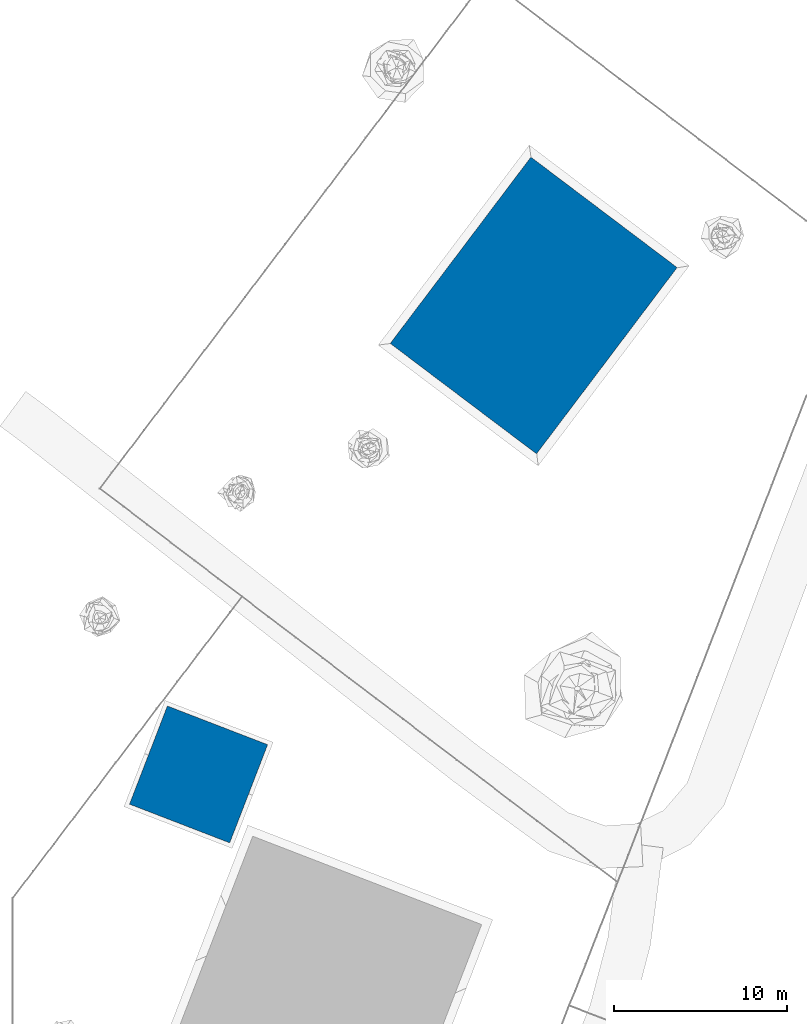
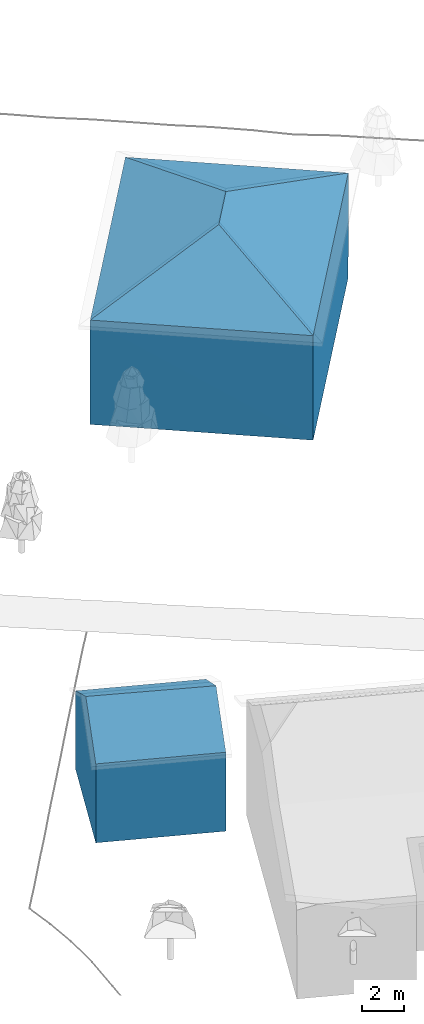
# Not in any storey, part 2 of 88: 2 walls.
"""IFC4 building model written with IfcOpenShell, lengths in metres."""

from ifc_helpers import new_model, si_unit, origin_with_axes, place, context, subcontext, project, spatial, faceted_brep, element, save


model = new_model("IFC4")

# Units and contexts
model_context = context("Model", 3, precision=1e-05, world=origin_with_axes())
body_context = subcontext(model_context, "Body", "Model", "MODEL_VIEW")
ifc_project = project(units=[si_unit("LENGTHUNIT", "METRE"), si_unit("AREAUNIT", "SQUARE_METRE"), si_unit("VOLUMEUNIT", "CUBIC_METRE"), si_unit("PLANEANGLEUNIT", "RADIAN")], contexts=[model_context])

# Sites, building
site_1_placement = place(None, origin_with_axes())
site_1 = spatial("IfcSite", under=ifc_project, at=site_1_placement, Name="CH907857693633", CompositionType="ELEMENT")
site_2_placement = place(None, origin_with_axes())
site_2 = spatial("IfcSite", under=site_1, at=site_2_placement, Name="Buildings", CompositionType="ELEMENT")
building_1_placement = place(None, origin_with_axes())
building_1 = spatial("IfcBuilding", under=site_2, at=building_1_placement, Name="Building_00CCDBD0", CompositionType="ELEMENT")

# Wall
wall_1_placement = place(building_1_placement, origin_with_axes())
element("IfcWall", 1, at=wall_1_placement, inside=building_1, Name="Building_00CCDBD0_Wall", PredefinedType="NOTDEFINED", context=body_context, shape_type="Brep", body=[
    faceted_brep([(12.5190000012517, 102.504999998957, 5.90088779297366), (10.1669999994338, 105.019000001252, 6.77678779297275), (9.62700000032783, 103.620999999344, 5.90088779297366), (7.82899999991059, 107.570999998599, 7.67878779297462), (10.1669999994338, 105.019000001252, 6.77678779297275), (10.7129999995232, 106.436999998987, 7.66478779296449), (13.5989999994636, 105.298999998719, 7.65278779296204), (11.2690000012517, 107.872999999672, 6.7887877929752), (10.7129999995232, 106.436999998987, 7.66478779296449), (11.2690000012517, 107.872999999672, 6.7887877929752), (8.92100000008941, 110.409000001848, 5.90088779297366), (7.82899999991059, 107.570999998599, 7.67878779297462), (8.92100000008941, 110.409000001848, 5.90088779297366), (11.2690000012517, 107.872999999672, 6.7887877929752), (11.8150000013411, 109.291000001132, 5.90088779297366), (6.73499999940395, 104.736999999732, 3.63108779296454), (6.73499999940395, 104.736999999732, 1.36528779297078), (9.62700000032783, 103.620999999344, 3.63108779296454), (9.62700000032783, 103.620999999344, 1.36528779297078), (9.62700000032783, 103.620999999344, 3.63108779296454), (6.73499999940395, 104.736999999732, 1.36528779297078), (9.62700000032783, 103.620999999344, 3.63108779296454), (6.73499999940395, 104.736999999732, 5.90088779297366), (6.73499999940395, 104.736999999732, 3.63108779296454), (6.73499999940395, 104.736999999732, 5.90088779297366), (9.62700000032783, 103.620999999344, 3.63108779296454), (9.62700000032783, 103.620999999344, 5.90088779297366), (9.62700000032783, 103.620999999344, 5.90088779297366), (9.62700000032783, 103.620999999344, 3.63108779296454), (12.5190000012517, 102.504999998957, 5.90088779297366), (12.5190000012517, 102.504999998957, 3.63108779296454), (12.5190000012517, 102.504999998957, 5.90088779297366), (9.62700000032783, 103.620999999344, 3.63108779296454), (12.5190000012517, 102.504999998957, 1.36528779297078), (9.62700000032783, 103.620999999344, 3.63108779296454), (9.62700000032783, 103.620999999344, 1.36528779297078), (9.62700000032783, 103.620999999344, 3.63108779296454), (12.5190000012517, 102.504999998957, 1.36528779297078), (12.5190000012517, 102.504999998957, 3.63108779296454), (13.6149999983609, 105.33900000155, 3.63108779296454), (12.5190000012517, 102.504999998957, 3.63108779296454), (12.5190000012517, 102.504999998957, 1.36528779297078), (12.5190000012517, 102.504999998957, 1.36528779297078), (13.6149999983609, 105.33900000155, 1.36528779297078), (13.6149999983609, 105.33900000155, 3.63108779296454), (13.6149999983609, 105.33900000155, 3.63108779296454), (12.5190000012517, 102.504999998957, 5.90088779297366), (12.5190000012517, 102.504999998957, 3.63108779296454), (12.5190000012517, 102.504999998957, 5.90088779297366), (13.6149999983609, 105.33900000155, 3.63108779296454), (13.6149999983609, 105.33900000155, 5.90088779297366), (14.7089999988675, 108.175000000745, 5.90088779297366), (13.5989999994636, 105.298999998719, 7.65278779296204), (13.6149999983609, 105.33900000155, 5.90088779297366), (13.6149999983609, 105.33900000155, 3.63108779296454), (14.7089999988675, 108.175000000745, 1.36528779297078), (14.7089999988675, 108.175000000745, 3.63108779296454), (14.7089999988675, 108.175000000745, 5.90088779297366), (13.6149999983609, 105.33900000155, 5.90088779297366), (13.6149999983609, 105.33900000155, 3.63108779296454), (14.7089999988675, 108.175000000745, 1.36528779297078), (13.6149999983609, 105.33900000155, 3.63108779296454), (13.6149999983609, 105.33900000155, 1.36528779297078), (13.6149999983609, 105.33900000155, 3.63108779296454), (14.7089999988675, 108.175000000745, 3.63108779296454), (14.7089999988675, 108.175000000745, 5.90088779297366), (14.7089999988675, 108.175000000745, 5.90088779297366), (14.7089999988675, 108.175000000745, 3.63108779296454), (11.8150000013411, 109.291000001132, 3.63108779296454), (11.8150000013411, 109.291000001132, 3.63108779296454), (11.8150000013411, 109.291000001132, 5.90088779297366), (14.7089999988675, 108.175000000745, 5.90088779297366), (11.8150000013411, 109.291000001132, 3.63108779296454), (14.7089999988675, 108.175000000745, 1.36528779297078), (11.8150000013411, 109.291000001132, 1.36528779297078), (14.7089999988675, 108.175000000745, 1.36528779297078), (11.8150000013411, 109.291000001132, 3.63108779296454), (14.7089999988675, 108.175000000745, 3.63108779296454), (8.92100000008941, 110.409000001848, 1.36528779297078), (8.92100000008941, 110.409000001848, 3.63108779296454), (11.8150000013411, 109.291000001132, 3.63108779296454), (11.8150000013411, 109.291000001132, 3.63108779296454), (11.8150000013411, 109.291000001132, 1.36528779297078), (8.92100000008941, 110.409000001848, 1.36528779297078), (11.8150000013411, 109.291000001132, 3.63108779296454), (8.92100000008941, 110.409000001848, 5.90088779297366), (11.8150000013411, 109.291000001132, 5.90088779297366), (8.92100000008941, 110.409000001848, 5.90088779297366), (11.8150000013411, 109.291000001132, 3.63108779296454), (8.92100000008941, 110.409000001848, 3.63108779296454), (7.82899999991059, 107.572999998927, 3.63108779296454), (8.92100000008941, 110.409000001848, 1.36528779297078), (7.82899999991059, 107.572999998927, 1.36528779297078), (8.92100000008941, 110.409000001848, 1.36528779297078), (7.82899999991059, 107.572999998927, 3.63108779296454), (8.92100000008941, 110.409000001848, 3.63108779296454), (8.92100000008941, 110.409000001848, 3.63108779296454), (7.82899999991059, 107.572999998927, 3.63108779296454), (8.92100000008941, 110.409000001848, 5.90088779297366), (7.82899999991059, 107.572999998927, 5.90088779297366), (8.92100000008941, 110.409000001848, 5.90088779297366), (7.82899999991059, 107.572999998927, 3.63108779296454), (6.73499999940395, 104.736999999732, 5.90088779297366), (7.82899999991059, 107.570999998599, 7.67878779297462), (7.82899999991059, 107.572999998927, 5.90088779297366), (6.73499999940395, 104.736999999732, 3.63108779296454), (7.82899999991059, 107.572999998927, 3.63108779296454), (6.73499999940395, 104.736999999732, 1.36528779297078), (6.73499999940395, 104.736999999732, 5.90088779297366), (7.82899999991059, 107.572999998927, 3.63108779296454), (6.73499999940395, 104.736999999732, 3.63108779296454), (7.82899999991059, 107.572999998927, 1.36528779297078), (6.73499999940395, 104.736999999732, 1.36528779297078), (7.82899999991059, 107.572999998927, 3.63108779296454), (7.82899999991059, 107.572999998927, 3.63108779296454), (6.73499999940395, 104.736999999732, 5.90088779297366), (7.82899999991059, 107.572999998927, 5.90088779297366), (12.5190000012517, 102.504999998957, 1.36528779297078), (11.6209999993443, 104.47899999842, 1.36528779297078), (13.6149999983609, 105.33900000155, 1.36528779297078), (8.72700000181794, 105.596999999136, 1.36528779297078), (9.62700000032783, 103.620999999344, 1.36528779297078), (6.73499999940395, 104.736999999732, 1.36528779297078), (8.72700000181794, 105.596999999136, 1.36528779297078), (7.82899999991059, 107.572999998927, 1.36528779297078), (10.7210000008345, 106.45699999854, 1.36528779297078), (9.62700000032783, 103.620999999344, 1.36528779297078), (8.72700000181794, 105.596999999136, 1.36528779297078), (10.7210000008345, 106.45699999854, 1.36528779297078), (10.7210000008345, 106.45699999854, 1.36528779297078), (11.6209999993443, 104.47899999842, 1.36528779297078), (9.62700000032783, 103.620999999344, 1.36528779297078), (12.714999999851, 107.315000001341, 1.36528779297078), (11.8150000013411, 109.291000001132, 1.36528779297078), (14.7089999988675, 108.175000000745, 1.36528779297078), (9.82099999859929, 108.431000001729, 1.36528779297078), (8.92100000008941, 110.409000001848, 1.36528779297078), (11.8150000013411, 109.291000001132, 1.36528779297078), (10.7210000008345, 106.45699999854, 1.36528779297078), (9.82099999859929, 108.431000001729, 1.36528779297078), (11.8150000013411, 109.291000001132, 1.36528779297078), (9.82099999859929, 108.431000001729, 1.36528779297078), (10.7210000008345, 106.45699999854, 1.36528779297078), (7.82899999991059, 107.572999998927, 1.36528779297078), (8.92100000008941, 110.409000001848, 1.36528779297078), (9.82099999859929, 108.431000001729, 1.36528779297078), (7.82899999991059, 107.572999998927, 1.36528779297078), (13.6149999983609, 105.33900000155, 1.36528779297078), (12.714999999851, 107.315000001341, 1.36528779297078), (14.7089999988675, 108.175000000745, 1.36528779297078), (11.8150000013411, 109.291000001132, 1.36528779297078), (12.714999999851, 107.315000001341, 1.36528779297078), (10.7210000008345, 106.45699999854, 1.36528779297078), (12.714999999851, 107.315000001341, 1.36528779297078), (13.6149999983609, 105.33900000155, 1.36528779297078), (10.7210000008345, 106.45699999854, 1.36528779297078), (11.6209999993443, 104.47899999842, 1.36528779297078), (10.7210000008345, 106.45699999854, 1.36528779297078), (13.6149999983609, 105.33900000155, 1.36528779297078), (11.6209999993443, 104.47899999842, 1.36528779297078), (12.5190000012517, 102.504999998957, 1.36528779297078), (9.62700000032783, 103.620999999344, 1.36528779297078), (7.82899999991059, 107.572999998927, 1.36528779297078), (8.72700000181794, 105.596999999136, 1.36528779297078), (6.73499999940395, 104.736999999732, 1.36528779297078), (13.5989999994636, 105.298999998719, 7.65278779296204), (14.7089999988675, 108.175000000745, 5.90088779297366), (11.2690000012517, 107.872999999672, 6.7887877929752), (12.5190000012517, 102.504999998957, 5.90088779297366), (13.5989999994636, 105.298999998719, 7.65278779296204), (10.1669999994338, 105.019000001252, 6.77678779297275), (7.82899999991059, 107.570999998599, 7.67878779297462), (6.73499999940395, 104.736999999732, 5.90088779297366), (10.1669999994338, 105.019000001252, 6.77678779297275), (10.1669999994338, 105.019000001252, 6.77678779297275), (13.5989999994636, 105.298999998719, 7.65278779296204), (10.7129999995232, 106.436999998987, 7.66478779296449), (11.2690000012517, 107.872999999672, 6.7887877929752), (7.82899999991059, 107.570999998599, 7.67878779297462), (10.7129999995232, 106.436999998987, 7.66478779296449), (11.2690000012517, 107.872999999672, 6.7887877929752), (14.7089999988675, 108.175000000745, 5.90088779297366), (11.8150000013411, 109.291000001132, 5.90088779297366), (10.1669999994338, 105.019000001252, 6.77678779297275), (6.73499999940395, 104.736999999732, 5.90088779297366), (9.62700000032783, 103.620999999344, 5.90088779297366), (13.5989999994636, 105.298999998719, 7.65278779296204), (12.5190000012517, 102.504999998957, 5.90088779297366), (13.6149999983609, 105.33900000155, 5.90088779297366), (7.82899999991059, 107.570999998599, 7.67878779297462), (8.92100000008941, 110.409000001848, 5.90088779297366), (7.82899999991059, 107.572999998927, 5.90088779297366)], [[[0, 1, 2]], [[3, 4, 5]], [[6, 7, 8]], [[9, 10, 11]], [[12, 13, 14]], [[15, 16, 17]], [[18, 19, 20]], [[21, 22, 23]], [[24, 25, 26]], [[27, 28, 29]], [[30, 31, 32]], [[33, 34, 35]], [[36, 37, 38]], [[39, 40, 41]], [[42, 43, 44]], [[45, 46, 47]], [[48, 49, 50]], [[51, 52, 53]], [[54, 55, 56]], [[57, 58, 59]], [[60, 61, 62]], [[63, 64, 65]], [[66, 67, 68]], [[69, 70, 71]], [[72, 73, 74]], [[75, 76, 77]], [[78, 79, 80]], [[81, 82, 83]], [[84, 85, 86]], [[87, 88, 89]], [[90, 91, 92]], [[93, 94, 95]], [[96, 97, 98]], [[99, 100, 101]], [[102, 103, 104]], [[105, 106, 107]], [[108, 109, 110]], [[111, 112, 113]], [[114, 115, 116]], [[117, 118, 119]], [[120, 121, 122]], [[123, 124, 125]], [[126, 127, 128]], [[129, 130, 131]], [[132, 133, 134]], [[135, 136, 137]], [[138, 139, 140]], [[141, 142, 143]], [[144, 145, 146]], [[147, 148, 149]], [[150, 151, 152]], [[153, 154, 155]], [[156, 157, 158]], [[159, 160, 161]], [[162, 163, 164]], [[165, 166, 167]], [[168, 169, 170]], [[171, 172, 173]], [[174, 175, 176]], [[177, 178, 179]], [[180, 181, 182]], [[183, 184, 185]], [[186, 187, 188]], [[189, 190, 191]]]),
])

# Building
building_2_placement = place(None, origin_with_axes())
building_2 = spatial("IfcBuilding", under=site_2, at=building_2_placement, Name="Building_A8D2A459", CompositionType="ELEMENT")

# Wall
wall_2_placement = place(building_2_placement, origin_with_axes())
element("IfcWall", 2, at=wall_2_placement, inside=building_2, Name="Building_A8D2A459_Wall", PredefinedType="NOTDEFINED", context=body_context, shape_type="Brep", body=[
    faceted_brep([(29.3729999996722, 132.355000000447, 12.2363877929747), (26.0170000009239, 128.15700000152, 10.0105877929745), (29.8070000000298, 128.664999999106, 11.1244877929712), (31.0130000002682, 134.526999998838, 12.2363877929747), (25.855000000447, 136.717000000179, 10.0085877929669), (26.4050000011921, 132.932999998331, 11.1224877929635), (29.3729999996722, 132.355000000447, 12.2363877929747), (26.4050000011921, 132.932999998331, 11.1224877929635), (25.5850000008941, 131.846999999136, 11.1224877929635), (31.0130000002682, 134.526999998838, 12.2363877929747), (34.2950000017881, 130.346999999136, 10.0124877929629), (34.6829999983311, 135.125, 11.1244877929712), (31.0130000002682, 134.526999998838, 12.2363877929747), (29.3729999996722, 132.355000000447, 12.2363877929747), (30.6270000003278, 129.750999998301, 11.1244877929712), (31.0130000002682, 134.526999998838, 12.2363877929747), (34.1350000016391, 138.909000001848, 10.0105877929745), (30.464999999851, 138.311000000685, 11.1224877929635), (30.234999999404, 124.969000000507, 4.01298779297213), (30.2390000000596, 124.97500000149, 10.0145877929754), (26.015000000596, 128.153000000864, 7.0107877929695), (21.7950000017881, 131.340999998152, 10.0085877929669), (21.7910000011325, 131.34299999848, 4.01098779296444), (26.015000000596, 128.153000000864, 7.0107877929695), (38.3530000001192, 135.72500000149, 4.01098779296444), (38.3530000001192, 135.723000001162, 10.0104877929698), (34.2950000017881, 130.348999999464, 7.01278779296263), (30.2390000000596, 124.97500000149, 10.0145877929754), (30.234999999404, 124.969000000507, 4.01298779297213), (34.2950000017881, 130.348999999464, 7.01278779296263), (38.3530000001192, 135.723000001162, 10.0104877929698), (34.1350000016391, 138.909000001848, 7.0107877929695), (34.1350000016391, 138.909000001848, 10.0105877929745), (29.9109999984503, 142.098999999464, 4.01298779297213), (34.1350000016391, 138.909000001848, 7.0107877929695), (34.1330000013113, 138.91099999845, 4.01298779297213), (29.9149999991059, 142.096999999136, 10.0085877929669), (25.8530000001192, 136.719000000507, 7.0107877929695), (25.855000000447, 136.717000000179, 10.0085877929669), (21.7910000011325, 131.34299999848, 4.01098779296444), (25.8530000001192, 136.719000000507, 7.0107877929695), (25.8530000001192, 136.719000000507, 4.01298779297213), (30.0729999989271, 133.532999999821, 4.01298779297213), (30.1530000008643, 129.250999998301, 4.01298779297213), (26.0130000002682, 128.155000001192, 4.01298779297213), (26.0130000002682, 128.155000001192, 4.01298779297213), (25.9329999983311, 132.436999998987, 4.01298779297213), (30.0729999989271, 133.532999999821, 4.01298779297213), (34.1330000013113, 138.91099999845, 4.01298779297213), (34.2129999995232, 134.629000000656, 4.01298779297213), (30.0729999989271, 133.532999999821, 4.01298779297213), (25.9329999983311, 132.436999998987, 4.01298779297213), (26.0130000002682, 128.155000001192, 4.01298779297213), (21.7910000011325, 131.34299999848, 4.01098779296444), (25.9329999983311, 132.436999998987, 4.01298779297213), (25.8530000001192, 136.719000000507, 4.01298779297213), (30.0729999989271, 133.532999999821, 4.01298779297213), (34.2950000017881, 130.344999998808, 4.01298779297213), (34.2129999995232, 134.629000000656, 4.01298779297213), (38.3530000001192, 135.72500000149, 4.01098779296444), (34.2129999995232, 134.629000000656, 4.01298779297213), (34.2950000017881, 130.344999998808, 4.01298779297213), (30.0729999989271, 133.532999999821, 4.01298779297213), (34.2129999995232, 134.629000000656, 4.01298779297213), (34.1330000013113, 138.91099999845, 4.01298779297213), (38.3530000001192, 135.72500000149, 4.01098779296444), (30.1530000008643, 129.250999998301, 4.01298779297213), (30.0729999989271, 133.532999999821, 4.01298779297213), (34.2950000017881, 130.344999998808, 4.01298779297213), (30.234999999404, 124.969000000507, 4.01298779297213), (30.1530000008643, 129.250999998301, 4.01298779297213), (34.2950000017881, 130.344999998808, 4.01298779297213), (30.1530000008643, 129.250999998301, 4.01298779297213), (30.234999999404, 124.969000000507, 4.01298779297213), (26.0130000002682, 128.155000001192, 4.01298779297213), (30.0729999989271, 133.532999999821, 4.01298779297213), (29.9930000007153, 137.815000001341, 4.01298779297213), (34.1330000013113, 138.91099999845, 4.01298779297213), (29.9930000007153, 137.815000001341, 4.01298779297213), (30.0729999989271, 133.532999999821, 4.01298779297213), (25.8530000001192, 136.719000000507, 4.01298779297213), (29.9109999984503, 142.098999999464, 4.01298779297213), (29.9930000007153, 137.815000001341, 4.01298779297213), (25.8530000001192, 136.719000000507, 4.01298779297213), (29.9930000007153, 137.815000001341, 4.01298779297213), (29.9109999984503, 142.098999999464, 4.01298779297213), (34.1330000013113, 138.91099999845, 4.01298779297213), (25.8530000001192, 136.719000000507, 4.01298779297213), (25.9329999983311, 132.436999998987, 4.01298779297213), (21.7910000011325, 131.34299999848, 4.01098779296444), (29.9149999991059, 142.096999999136, 10.0085877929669), (29.9109999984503, 142.098999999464, 4.01298779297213), (25.8530000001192, 136.719000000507, 7.0107877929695), (21.7910000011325, 131.34299999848, 4.01098779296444), (21.7950000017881, 131.340999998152, 10.0085877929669), (25.8530000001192, 136.719000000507, 7.0107877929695), (30.2390000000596, 124.97500000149, 10.0145877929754), (34.2950000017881, 130.348999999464, 7.01278779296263), (34.2950000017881, 130.346999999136, 10.0124877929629), (38.3530000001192, 135.72500000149, 4.01098779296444), (34.2950000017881, 130.348999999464, 7.01278779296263), (34.2950000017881, 130.344999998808, 4.01298779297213), (29.9149999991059, 142.096999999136, 10.0085877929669), (25.855000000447, 136.717000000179, 10.0085877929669), (30.464999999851, 138.311000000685, 11.1224877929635), (25.8530000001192, 136.719000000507, 7.0107877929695), (21.7950000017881, 131.340999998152, 10.0085877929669), (25.855000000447, 136.717000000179, 10.0085877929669), (25.8530000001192, 136.719000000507, 7.0107877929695), (29.9109999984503, 142.098999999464, 4.01298779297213), (25.8530000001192, 136.719000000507, 4.01298779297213), (34.2950000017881, 130.348999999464, 7.01278779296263), (30.234999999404, 124.969000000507, 4.01298779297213), (34.2950000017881, 130.344999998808, 4.01298779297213), (30.2390000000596, 124.97500000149, 10.0145877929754), (34.2950000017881, 130.346999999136, 10.0124877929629), (30.6270000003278, 129.750999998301, 11.1244877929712), (34.2950000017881, 130.348999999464, 7.01278779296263), (38.3530000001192, 135.723000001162, 10.0104877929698), (34.2950000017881, 130.346999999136, 10.0124877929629), (38.3530000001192, 135.723000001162, 10.0104877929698), (38.3530000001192, 135.72500000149, 4.01098779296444), (34.1350000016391, 138.909000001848, 7.0107877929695), (29.9109999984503, 142.098999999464, 4.01298779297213), (29.9149999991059, 142.096999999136, 10.0085877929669), (34.1350000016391, 138.909000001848, 7.0107877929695), (21.7950000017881, 131.340999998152, 10.0085877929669), (26.015000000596, 128.153000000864, 7.0107877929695), (26.0170000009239, 128.15700000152, 10.0105877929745), (30.234999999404, 124.969000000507, 4.01298779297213), (26.015000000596, 128.153000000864, 7.0107877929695), (26.0130000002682, 128.155000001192, 4.01298779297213), (26.015000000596, 128.153000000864, 7.0107877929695), (21.7910000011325, 131.34299999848, 4.01098779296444), (26.0130000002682, 128.155000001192, 4.01298779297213), (34.1350000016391, 138.909000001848, 7.0107877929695), (38.3530000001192, 135.72500000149, 4.01098779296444), (34.1330000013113, 138.91099999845, 4.01298779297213), (38.3530000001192, 135.723000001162, 10.0104877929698), (34.1350000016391, 138.909000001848, 10.0105877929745), (34.6829999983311, 135.125, 11.1244877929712), (34.1350000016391, 138.909000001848, 7.0107877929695), (29.9149999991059, 142.096999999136, 10.0085877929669), (34.1350000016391, 138.909000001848, 10.0105877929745), (21.7950000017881, 131.340999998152, 10.0085877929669), (26.0170000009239, 128.15700000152, 10.0105877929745), (25.5850000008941, 131.846999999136, 11.1224877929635), (26.015000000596, 128.153000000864, 7.0107877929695), (30.2390000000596, 124.97500000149, 10.0145877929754), (26.0170000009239, 128.15700000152, 10.0105877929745), (25.855000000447, 136.717000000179, 10.0085877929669), (21.7950000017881, 131.340999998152, 10.0085877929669), (26.4050000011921, 132.932999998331, 11.1224877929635), (29.3729999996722, 132.355000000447, 12.2363877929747), (31.0130000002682, 134.526999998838, 12.2363877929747), (26.4050000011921, 132.932999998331, 11.1224877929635), (34.2950000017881, 130.346999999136, 10.0124877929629), (31.0130000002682, 134.526999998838, 12.2363877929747), (30.6270000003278, 129.750999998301, 11.1244877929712), (30.2390000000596, 124.97500000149, 10.0145877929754), (30.6270000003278, 129.750999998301, 11.1244877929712), (29.8070000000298, 128.664999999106, 11.1244877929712), (25.855000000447, 136.717000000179, 10.0085877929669), (31.0130000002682, 134.526999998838, 12.2363877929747), (30.464999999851, 138.311000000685, 11.1224877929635), (34.1350000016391, 138.909000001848, 10.0105877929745), (29.9149999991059, 142.096999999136, 10.0085877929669), (30.464999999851, 138.311000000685, 11.1224877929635), (26.0170000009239, 128.15700000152, 10.0105877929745), (29.3729999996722, 132.355000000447, 12.2363877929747), (25.5850000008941, 131.846999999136, 11.1224877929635), (26.4050000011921, 132.932999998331, 11.1224877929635), (21.7950000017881, 131.340999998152, 10.0085877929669), (25.5850000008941, 131.846999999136, 11.1224877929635), (34.2950000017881, 130.346999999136, 10.0124877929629), (38.3530000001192, 135.723000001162, 10.0104877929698), (34.6829999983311, 135.125, 11.1244877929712), (34.1350000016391, 138.909000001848, 10.0105877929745), (31.0130000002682, 134.526999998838, 12.2363877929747), (34.6829999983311, 135.125, 11.1244877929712), (26.0170000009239, 128.15700000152, 10.0105877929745), (30.2390000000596, 124.97500000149, 10.0145877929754), (29.8070000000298, 128.664999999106, 11.1244877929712), (30.6270000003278, 129.750999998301, 11.1244877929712), (29.3729999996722, 132.355000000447, 12.2363877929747), (29.8070000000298, 128.664999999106, 11.1244877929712)], [[[0, 1, 2]], [[3, 4, 5]], [[6, 7, 8]], [[9, 10, 11]], [[12, 13, 14]], [[15, 16, 17]], [[18, 19, 20]], [[21, 22, 23]], [[24, 25, 26]], [[27, 28, 29]], [[30, 31, 32]], [[33, 34, 35]], [[36, 37, 38]], [[39, 40, 41]], [[42, 43, 44]], [[45, 46, 47]], [[48, 49, 50]], [[51, 52, 53]], [[54, 55, 56]], [[57, 58, 59]], [[60, 61, 62]], [[63, 64, 65]], [[66, 67, 68]], [[69, 70, 71]], [[72, 73, 74]], [[75, 76, 77]], [[78, 79, 80]], [[81, 82, 83]], [[84, 85, 86]], [[87, 88, 89]], [[90, 91, 92]], [[93, 94, 95]], [[96, 97, 98]], [[99, 100, 101]], [[102, 103, 104]], [[105, 106, 107]], [[108, 109, 110]], [[111, 112, 113]], [[114, 115, 116]], [[117, 118, 119]], [[120, 121, 122]], [[123, 124, 125]], [[126, 127, 128]], [[129, 130, 131]], [[132, 133, 134]], [[135, 136, 137]], [[138, 139, 140]], [[141, 142, 143]], [[144, 145, 146]], [[147, 148, 149]], [[150, 151, 152]], [[153, 154, 155]], [[156, 157, 158]], [[159, 160, 161]], [[162, 163, 164]], [[165, 166, 167]], [[168, 169, 170]], [[171, 172, 173]], [[174, 175, 176]], [[177, 178, 179]], [[180, 181, 182]], [[183, 184, 185]]]),
])

save(model, "model.ifc")
